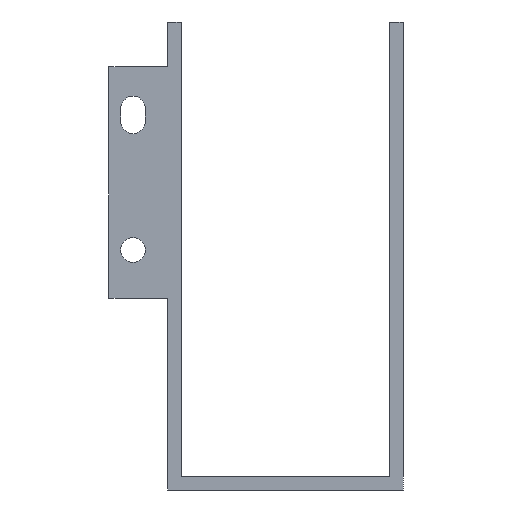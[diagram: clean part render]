
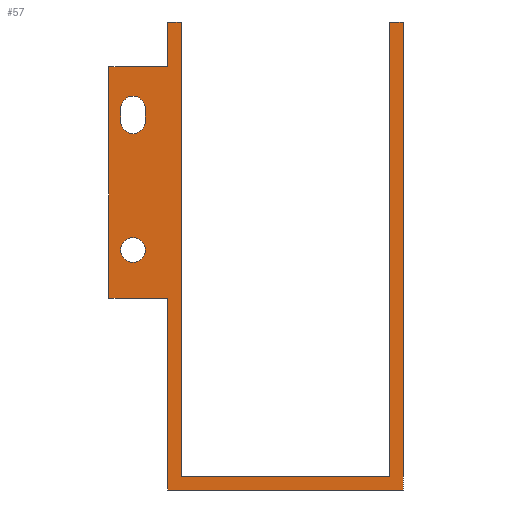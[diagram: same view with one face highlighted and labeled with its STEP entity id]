
A CAD part, front view. The second image highlights one B-rep face of the part: STEP entity #57.
In plain terms, the highlighted planar face has unit normal (0, -1, 0).
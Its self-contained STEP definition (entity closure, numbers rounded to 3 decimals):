
#21 = EDGE_CURVE('',#22,#24,#26,.T.);
#22 = VERTEX_POINT('',#23);
#23 = CARTESIAN_POINT('',(22.,0.,71.65));
#24 = VERTEX_POINT('',#25);
#25 = CARTESIAN_POINT('',(0.,0.,71.65));
#26 = LINE('',#27,#28);
#27 = CARTESIAN_POINT('',(27.,0.,71.65));
#28 = VECTOR('',#29,1.);
#29 = DIRECTION('',(-1.,0.,0.));
#57 = ADVANCED_FACE('',(#58,#147,#158),#194,.T.);
#58 = FACE_BOUND('',#59,.T.);
#59 = EDGE_LOOP('',(#60,#70,#78,#86,#94,#102,#110,#118,#126,#134,#140,
    #141));
#60 = ORIENTED_EDGE('',*,*,#61,.F.);
#61 = EDGE_CURVE('',#62,#64,#66,.T.);
#62 = VERTEX_POINT('',#63);
#63 = CARTESIAN_POINT('',(110.,0.,0.));
#64 = VERTEX_POINT('',#65);
#65 = CARTESIAN_POINT('',(22.,0.,0.));
#66 = LINE('',#67,#68);
#67 = CARTESIAN_POINT('',(110.,0.,0.));
#68 = VECTOR('',#69,1.);
#69 = DIRECTION('',(-1.,0.,0.));
#70 = ORIENTED_EDGE('',*,*,#71,.T.);
#71 = EDGE_CURVE('',#62,#72,#74,.T.);
#72 = VERTEX_POINT('',#73);
#73 = CARTESIAN_POINT('',(110.,0.,175.));
#74 = LINE('',#75,#76);
#75 = CARTESIAN_POINT('',(110.,0.,0.));
#76 = VECTOR('',#77,1.);
#77 = DIRECTION('',(0.,0.,1.));
#78 = ORIENTED_EDGE('',*,*,#79,.T.);
#79 = EDGE_CURVE('',#72,#80,#82,.T.);
#80 = VERTEX_POINT('',#81);
#81 = CARTESIAN_POINT('',(105.,0.,175.));
#82 = LINE('',#83,#84);
#83 = CARTESIAN_POINT('',(110.,0.,175.));
#84 = VECTOR('',#85,1.);
#85 = DIRECTION('',(-1.,0.,0.));
#86 = ORIENTED_EDGE('',*,*,#87,.F.);
#87 = EDGE_CURVE('',#88,#80,#90,.T.);
#88 = VERTEX_POINT('',#89);
#89 = CARTESIAN_POINT('',(105.,0.,5.));
#90 = LINE('',#91,#92);
#91 = CARTESIAN_POINT('',(105.,0.,0.));
#92 = VECTOR('',#93,1.);
#93 = DIRECTION('',(0.,0.,1.));
#94 = ORIENTED_EDGE('',*,*,#95,.T.);
#95 = EDGE_CURVE('',#88,#96,#98,.T.);
#96 = VERTEX_POINT('',#97);
#97 = CARTESIAN_POINT('',(27.,0.,5.));
#98 = LINE('',#99,#100);
#99 = CARTESIAN_POINT('',(105.,0.,5.));
#100 = VECTOR('',#101,1.);
#101 = DIRECTION('',(-1.,0.,0.));
#102 = ORIENTED_EDGE('',*,*,#103,.T.);
#103 = EDGE_CURVE('',#96,#104,#106,.T.);
#104 = VERTEX_POINT('',#105);
#105 = CARTESIAN_POINT('',(27.,0.,175.));
#106 = LINE('',#107,#108);
#107 = CARTESIAN_POINT('',(27.,0.,0.));
#108 = VECTOR('',#109,1.);
#109 = DIRECTION('',(0.,0.,1.));
#110 = ORIENTED_EDGE('',*,*,#111,.T.);
#111 = EDGE_CURVE('',#104,#112,#114,.T.);
#112 = VERTEX_POINT('',#113);
#113 = CARTESIAN_POINT('',(22.,0.,175.));
#114 = LINE('',#115,#116);
#115 = CARTESIAN_POINT('',(27.,0.,175.));
#116 = VECTOR('',#117,1.);
#117 = DIRECTION('',(-1.,0.,0.));
#118 = ORIENTED_EDGE('',*,*,#119,.F.);
#119 = EDGE_CURVE('',#120,#112,#122,.T.);
#120 = VERTEX_POINT('',#121);
#121 = CARTESIAN_POINT('',(22.,0.,158.35));
#122 = LINE('',#123,#124);
#123 = CARTESIAN_POINT('',(22.,0.,0.));
#124 = VECTOR('',#125,1.);
#125 = DIRECTION('',(0.,0.,1.));
#126 = ORIENTED_EDGE('',*,*,#127,.T.);
#127 = EDGE_CURVE('',#120,#128,#130,.T.);
#128 = VERTEX_POINT('',#129);
#129 = CARTESIAN_POINT('',(0.,0.,158.35));
#130 = LINE('',#131,#132);
#131 = CARTESIAN_POINT('',(27.,0.,158.35));
#132 = VECTOR('',#133,1.);
#133 = DIRECTION('',(-1.,0.,0.));
#134 = ORIENTED_EDGE('',*,*,#135,.F.);
#135 = EDGE_CURVE('',#24,#128,#136,.T.);
#136 = LINE('',#137,#138);
#137 = CARTESIAN_POINT('',(0.,0.,71.65));
#138 = VECTOR('',#139,1.);
#139 = DIRECTION('',(0.,0.,1.));
#140 = ORIENTED_EDGE('',*,*,#21,.F.);
#141 = ORIENTED_EDGE('',*,*,#142,.F.);
#142 = EDGE_CURVE('',#64,#22,#143,.T.);
#143 = LINE('',#144,#145);
#144 = CARTESIAN_POINT('',(22.,0.,0.));
#145 = VECTOR('',#146,1.);
#146 = DIRECTION('',(0.,0.,1.));
#147 = FACE_BOUND('',#148,.T.);
#148 = EDGE_LOOP('',(#149));
#149 = ORIENTED_EDGE('',*,*,#150,.T.);
#150 = EDGE_CURVE('',#151,#151,#153,.T.);
#151 = VERTEX_POINT('',#152);
#152 = CARTESIAN_POINT('',(4.4,0.,89.735));
#153 = CIRCLE('',#154,4.6);
#154 = AXIS2_PLACEMENT_3D('',#155,#156,#157);
#155 = CARTESIAN_POINT('',(9.,0.,89.735));
#156 = DIRECTION('',(0.,1.,0.));
#157 = DIRECTION('',(-1.,0.,0.));
#158 = FACE_BOUND('',#159,.T.);
#159 = EDGE_LOOP('',(#160,#170,#179,#187));
#160 = ORIENTED_EDGE('',*,*,#161,.T.);
#161 = EDGE_CURVE('',#162,#164,#166,.T.);
#162 = VERTEX_POINT('',#163);
#163 = CARTESIAN_POINT('',(13.6,0.,142.665));
#164 = VERTEX_POINT('',#165);
#165 = CARTESIAN_POINT('',(13.6,0.,137.865));
#166 = LINE('',#167,#168);
#167 = CARTESIAN_POINT('',(13.6,0.,106.529));
#168 = VECTOR('',#169,1.);
#169 = DIRECTION('',(0.,0.,-1.));
#170 = ORIENTED_EDGE('',*,*,#171,.T.);
#171 = EDGE_CURVE('',#164,#172,#174,.T.);
#172 = VERTEX_POINT('',#173);
#173 = CARTESIAN_POINT('',(4.4,0.,137.865));
#174 = CIRCLE('',#175,4.6);
#175 = AXIS2_PLACEMENT_3D('',#176,#177,#178);
#176 = CARTESIAN_POINT('',(9.,0.,137.865));
#177 = DIRECTION('',(0.,1.,0.));
#178 = DIRECTION('',(-1.,0.,0.));
#179 = ORIENTED_EDGE('',*,*,#180,.F.);
#180 = EDGE_CURVE('',#181,#172,#183,.T.);
#181 = VERTEX_POINT('',#182);
#182 = CARTESIAN_POINT('',(4.4,0.,142.665));
#183 = LINE('',#184,#185);
#184 = CARTESIAN_POINT('',(4.4,0.,106.529));
#185 = VECTOR('',#186,1.);
#186 = DIRECTION('',(0.,0.,-1.));
#187 = ORIENTED_EDGE('',*,*,#188,.T.);
#188 = EDGE_CURVE('',#181,#162,#189,.T.);
#189 = CIRCLE('',#190,4.6);
#190 = AXIS2_PLACEMENT_3D('',#191,#192,#193);
#191 = CARTESIAN_POINT('',(9.,0.,142.665));
#192 = DIRECTION('',(0.,1.,0.));
#193 = DIRECTION('',(-1.,0.,0.));
#194 = PLANE('',#195);
#195 = AXIS2_PLACEMENT_3D('',#196,#197,#198);
#196 = CARTESIAN_POINT('',(61.245,0.,75.192));
#197 = DIRECTION('',(0.,-1.,0.));
#198 = DIRECTION('',(1.,0.,0.));
